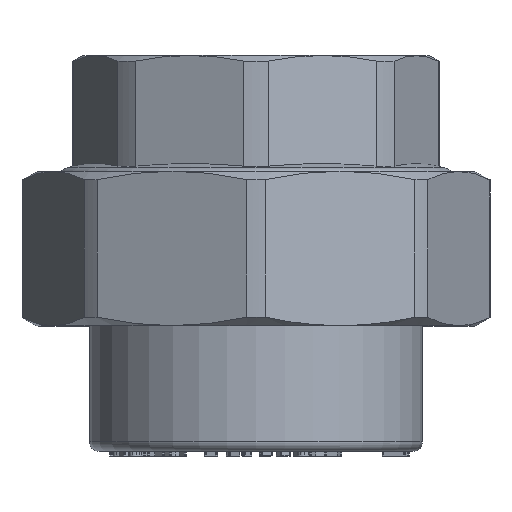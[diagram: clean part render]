
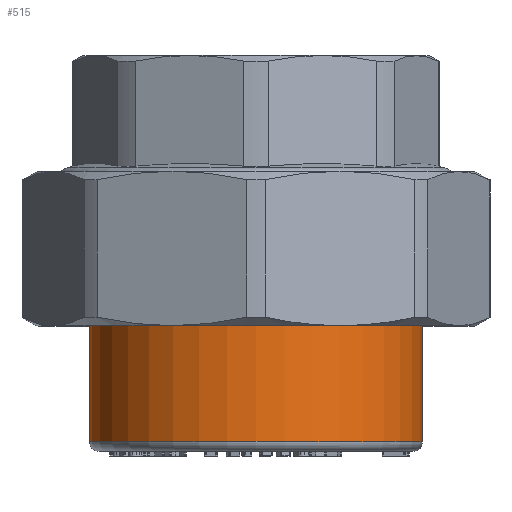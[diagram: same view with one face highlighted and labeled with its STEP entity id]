
A CAD part, top view. The second image highlights one B-rep face of the part: STEP entity #515.
In plain terms, the highlighted cylindrical face has radius 17.25 mm (diameter 34.5 mm), a full revolution.
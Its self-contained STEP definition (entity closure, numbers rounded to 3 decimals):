
#515=ADVANCED_FACE('',(#3828,#3830),#3832,.T.);
#3828=FACE_OUTER_BOUND('',#3829,.T.);
#3829=EDGE_LOOP('',(#8662));
#3830=FACE_OUTER_BOUND('',#3831,.T.);
#3831=EDGE_LOOP('',(#8663));
#3832=CYLINDRICAL_SURFACE('',#3833,17.25);
#3833=AXIS2_PLACEMENT_3D('',#3834,#3835,#3836);
#3834=CARTESIAN_POINT('',(0.,0.,0.));
#3835=DIRECTION('',(0.,1.,0.));
#3836=DIRECTION('',(-1.,0.,0.));
#8662=ORIENTED_EDGE('',*,*,#11980,.F.);
#8663=ORIENTED_EDGE('',*,*,#11067,.T.);
#11067=EDGE_CURVE('',#13513,#13513,#13514,.T.);
#11980=EDGE_CURVE('',#14884,#14884,#14885,.T.);
#13513=VERTEX_POINT('',#18056);
#13514=CIRCLE('',#18057,17.25);
#14884=VERTEX_POINT('',#21447);
#14885=CIRCLE('',#21448,17.25);
#18056=CARTESIAN_POINT('',(-17.25,1.,0.));
#18057=AXIS2_PLACEMENT_3D('',#18058,#18059,#18060);
#18058=CARTESIAN_POINT('',(0.,1.,0.));
#18059=DIRECTION('',(0.,1.,0.));
#18060=DIRECTION('',(-1.,0.,0.));
#21447=CARTESIAN_POINT('',(-17.25,16.5,0.));
#21448=AXIS2_PLACEMENT_3D('',#21449,#21450,#21451);
#21449=CARTESIAN_POINT('',(0.,16.5,0.));
#21450=DIRECTION('',(0.,1.,0.));
#21451=DIRECTION('',(-1.,0.,0.));
